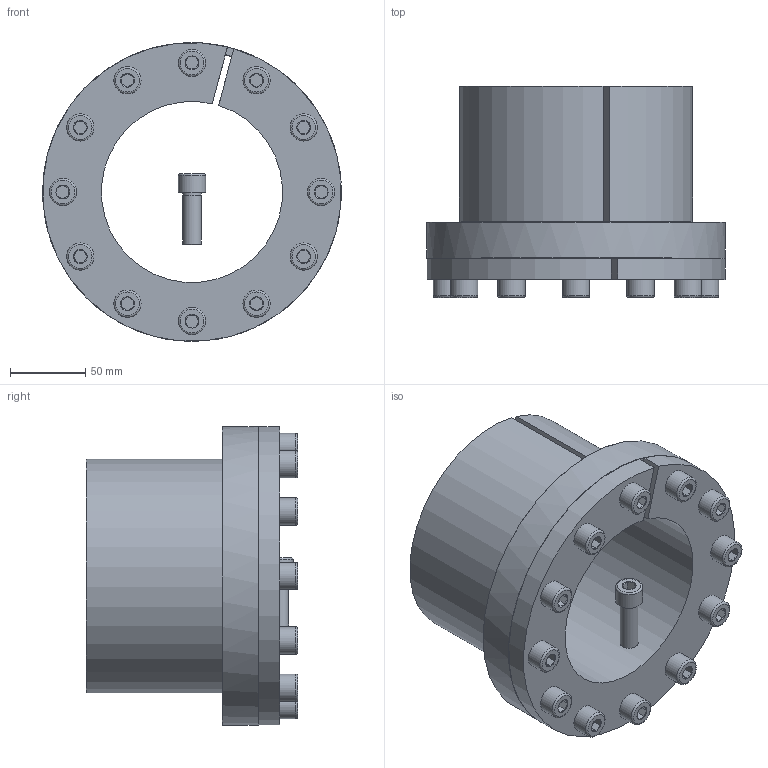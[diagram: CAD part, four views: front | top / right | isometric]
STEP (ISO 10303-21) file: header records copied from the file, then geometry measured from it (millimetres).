
FILE_DESCRIPTION( ( 'Unknown' ), '1' );
FILE_NAME( 'C:/Dokumente und Einstellungen/Sven/Desktop/homepage/cad - homepage/KBS80/KBS 80 - 120 x 155.stp', 'Unknown', ( 'Unknown' ), ( 'Unknown' ), 'XStep 1.0', 'Unknown', ' ' );
FILE_SCHEMA( ( 'automotive_design' ) );
Length unit declared in the file: millimetre
Products named in the file (14): Assem1; KBS 80 - 120 x 155; ISO EN DIN 4762 M12x35; ISO EN DIN 4762 M12x35-oa0; ISO EN DIN 4762 M12x35-oa1; ISO EN DIN 4762 M12x35-oa2; ISO EN DIN 4762 M12x35-oa3; ISO EN DIN 4762 M12x35-oa4; ISO EN DIN 4762 M12x35-oa5; ISO EN DIN 4762 M12x35-oa6; ISO EN DIN 4762 M12x35-oa7; ISO EN DIN 4762 M12x35-oa8; ISO EN DIN 4762 M12x35-oa9; ISO EN DIN 4762 M12x35-oa10
Bounding box: 198 x 140 x 198 mm (x, y, z)
Volume: 2860927.1 mm3; surface area: 412159.8 mm2
Topology: 26 solids, 26 shells, 664 faces, 1230 edges, 712 vertices
Faces by surface type: plane 304, cone 182, cylinder 130, torus 48
Full cylindrical faces by diameter (mm): 11 x24, 12 x72, 18 x24, 198 x2
Entity records: 8243 total; most frequent: CARTESIAN_POINT 1741, DIRECTION 1348, ORIENTED_EDGE 978, AXIS2_PLACEMENT_3D 593, EDGE_LOOP 505, EDGE_CURVE 489, FACE_OUTER_BOUND 417, ADVANCED_FACE 332
